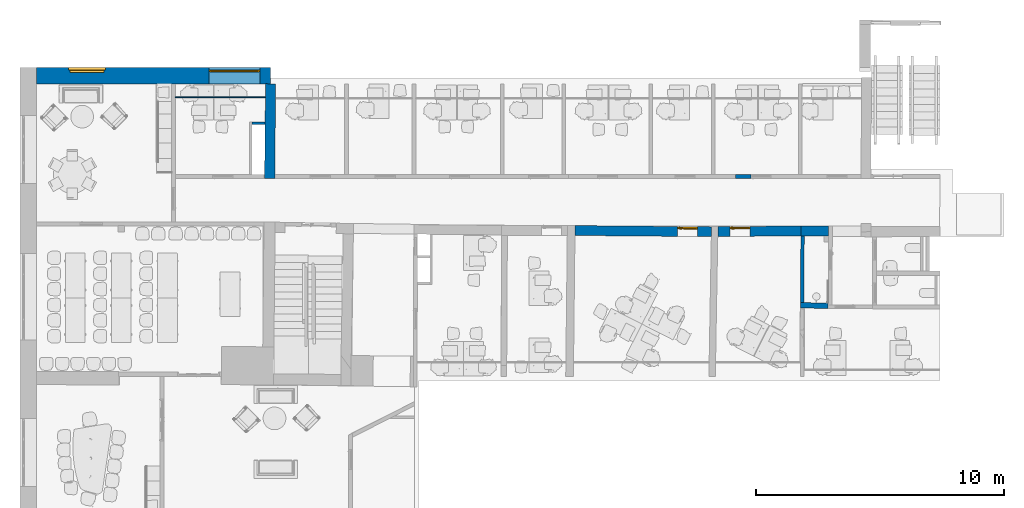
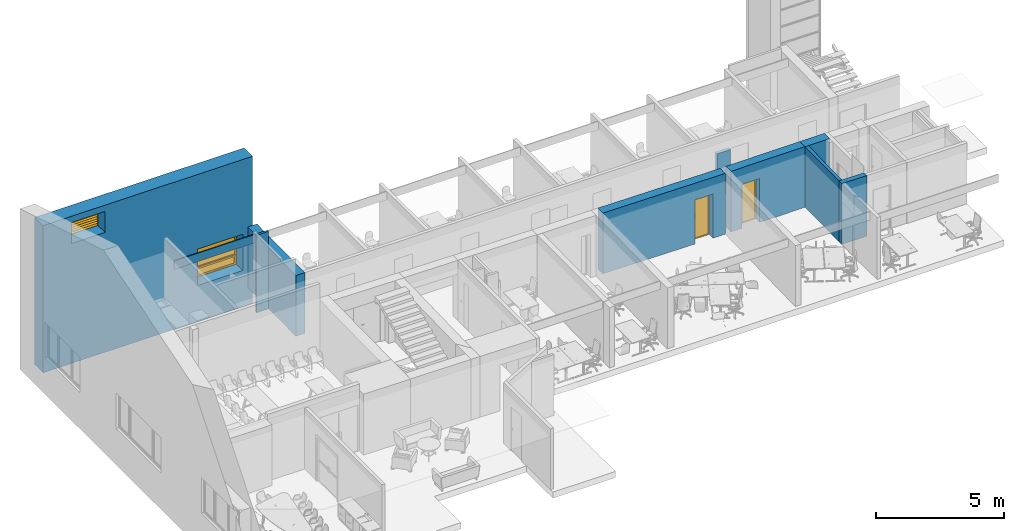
"""IFC2X3 building model written with IfcOpenShell, lengths in millimetres."""

from ifc_helpers import new_model, entity, si_unit, converted_unit, derived_unit, direction, frame, frame_2d, origin, place, context, subcontext, project, spatial, polyline, rectangle, outline, extrude, clip, bounded_halfspace, faceted_brep, source, transform, mapped, material, material_list, layer, layer_set, layer_usage, type_object, type_shapes, element, fill, save


model = new_model("IFC2X3")

# Units and contexts
model_context = context("Model", 3, precision=0.01, world=origin(), true_north=direction((6.12303176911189e-17, 1.0)))
context_of_model = context(None, 3, precision=0.01, world=origin(), true_north=direction((6.12303176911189e-17, 1.0)))
body_context = subcontext(model_context, "Body", "Model", "MODEL_VIEW")
ifc_project = project(units=[si_unit("LENGTHUNIT", "METRE", prefix="MILLI"), si_unit("AREAUNIT", "SQUARE_METRE"), si_unit("VOLUMEUNIT", "CUBIC_METRE"), converted_unit("PLANEANGLEUNIT", "DEGREE", entity("IfcRatioMeasure", 0.0174532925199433), si_unit("PLANEANGLEUNIT", "RADIAN"), dimensions=[0, 0, 0, 0, 0, 0, 0]), si_unit("MASSUNIT", "GRAM", prefix="KILO"), derived_unit("MASSDENSITYUNIT", [(si_unit("MASSUNIT", "GRAM", prefix="KILO"), 1), (si_unit("LENGTHUNIT", "METRE"), -3)]), si_unit("TIMEUNIT", "SECOND"), si_unit("FREQUENCYUNIT", "HERTZ"), si_unit("THERMODYNAMICTEMPERATUREUNIT", "DEGREE_CELSIUS"), derived_unit("THERMALTRANSMITTANCEUNIT", [(si_unit("MASSUNIT", "GRAM", prefix="KILO"), 1), (si_unit("THERMODYNAMICTEMPERATUREUNIT", "KELVIN"), -1), (si_unit("TIMEUNIT", "SECOND"), -3)]), derived_unit("VOLUMETRICFLOWRATEUNIT", [(si_unit("LENGTHUNIT", "METRE"), 3), (si_unit("TIMEUNIT", "SECOND"), -1)]), si_unit("ELECTRICCURRENTUNIT", "AMPERE"), si_unit("ELECTRICVOLTAGEUNIT", "VOLT"), si_unit("POWERUNIT", "WATT"), si_unit("FORCEUNIT", "NEWTON", prefix="KILO"), si_unit("ILLUMINANCEUNIT", "LUX"), si_unit("LUMINOUSFLUXUNIT", "LUMEN"), si_unit("LUMINOUSINTENSITYUNIT", "CANDELA"), derived_unit("USERDEFINED", [(si_unit("MASSUNIT", "GRAM", prefix="KILO"), -1), (si_unit("LENGTHUNIT", "METRE"), -2), (si_unit("TIMEUNIT", "SECOND"), 3), (si_unit("LUMINOUSFLUXUNIT", "LUMEN"), 1)]), derived_unit("LINEARVELOCITYUNIT", [(si_unit("LENGTHUNIT", "METRE"), 1), (si_unit("TIMEUNIT", "SECOND"), -1)]), si_unit("PRESSUREUNIT", "PASCAL"), derived_unit("USERDEFINED", [(si_unit("LENGTHUNIT", "METRE"), -2), (si_unit("MASSUNIT", "GRAM", prefix="KILO"), 1), (si_unit("TIMEUNIT", "SECOND"), -2)])], contexts=[model_context, context_of_model])

# Site, building, storey
site_placement = place(None, frame((121442.264707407, 135347.995453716, -1800.0)))
site = spatial("IfcSite", under=ifc_project, at=site_placement, Name="Surface", CompositionType="ELEMENT")
building_placement = place(site_placement, origin())
building = spatial("IfcBuilding", under=site, at=building_placement, CompositionType="ELEMENT")
storey_1_placement = place(building_placement, frame((0.0, 0.0, 5125.0)))
storey_1 = spatial("IfcBuildingStorey", under=building, at=storey_1_placement, Name="2 korrus", CompositionType="ELEMENT", Elevation=5125.00000000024)

# Wall, opening, door
ifc_material_1 = material(Name="__Betoonelement")
ifc_layer_1 = layer(ifc_material_1, 400.0)
ifc_layer_set_1 = layer_set([ifc_layer_1], Name="Basic Wall:40_Betoon")
ifc_layer_usage_1 = layer_usage(ifc_layer_set_1, "AXIS2", "POSITIVE", -200.0)
wall_type_1 = type_object("IfcWallType", Name="Basic Wall:40_Betoon", PredefinedType="STANDARD", material=ifc_layer_set_1)
wall_1_placement = place(storey_1_placement, frame((-88129.2373977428, -121273.742559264, 0.0), z_axis=(0.0, 0.0, 1.0), x_axis=(-0.999980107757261, -0.00630746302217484, 0.0)))
wall_1 = element("IfcWallStandardCase", 1, at=wall_1_placement, inside=storey_1, type_object=wall_type_1, material=ifc_layer_usage_1, Name="Basic Wall:40_Betoon", ObjectType="Basic Wall:40_Betoon", context=body_context, shape_type="Clipping", body=[
    clip(extrude(outline(polyline([(0.0, -200.0), (3341.96299466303, -200.0), (3351.46910264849, 200.0), (4.82659053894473, 200.0), (0.0, -200.0)])), origin(), (0.0, 0.0, 1.0), 2897.0), bounded_halfspace(frame((0.0, -200.0, 2897.0), z_axis=(0.0, 0.0, -1.0), x_axis=(0.00630746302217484, 0.999980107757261, 0.0)), True, frame((0.0, -200.0, 2897.0)), polyline([(0.0, 0.0), (3341.96299466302, 0.0), (3351.46910264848, 400.0), (4.82659053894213, 400.0), (0.0, 0.0)]))),
])
opening_1_placement = place(wall_1_placement, frame((2861.42970124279, 200.0, 0.0)))
opening_1 = element("IfcOpeningElement", 2, at=opening_1_placement, cuts=wall_1, Name="sma_D01:810 x 2110_SU-01 Siseuks:1", ObjectType="Opening", context=body_context, shape_type="SweptSolid", body=[
    extrude(rectangle(XDim=2099.99999999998, YDim=810.0, at=frame_2d((1049.99999999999, 405.0), x_axis=(1.0, 0.0))), frame((0.0, 0.0, 0.0), z_axis=(0.0, -1.0, 0.0), x_axis=(0.0, 0.0, 1.0)), (0.0, 0.0, 1.0), 400.0),
])
ifc_material_2 = material(Name="Metal - Aluminium")
ifc_material_3 = material(Name="Door - Panel_valge")
ifc_material_list_1 = material_list([ifc_material_2, ifc_material_3])
ifc_material_list_2 = material_list([ifc_material_2, ifc_material_3])
door_style = type_object("IfcDoorStyle", Name="810 x 2110_SU-01 Siseuks", ConstructionType="NOTDEFINED", OperationType="SINGLE_SWING_RIGHT", ParameterTakesPrecedence=False, Sizeable=False, material=ifc_material_list_2)
shared_shape_1 = source(origin(), body_context, "Body", "Brep", [
    faceted_brep([(100.0, 290.0, 1112.5), (100.0, 328.0, 1112.5), (75.0, 328.0, 1112.5), (75.0, 285.0, 1112.5), (195.0, 285.0, 1112.5), (195.0, 290.0, 1112.5), (100.0, 290.0, 1087.5), (195.0, 290.0, 1087.5), (195.0, 285.0, 1087.5), (75.0, 285.0, 1087.5), (75.0, 328.0, 1087.5), (100.0, 328.0, 1087.5)], [[[0, 1, 2, 3, 4, 5]], [[6, 7, 8, 9, 10, 11]], [[1, 0, 6, 11]], [[2, 1, 11, 10]], [[3, 2, 10, 9]], [[4, 3, 9, 8]], [[5, 4, 8, 7]], [[0, 5, 7, 6]]]),
    faceted_brep([(112.499999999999, 328.0, 1137.5), (112.499999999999, 330.0, 1137.5), (62.4999999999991, 330.0, 1137.5), (62.4999999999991, 328.0, 1137.5), (112.499999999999, 328.0, 1017.5), (62.4999999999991, 328.0, 1017.5), (62.4999999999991, 330.0, 1017.5), (112.499999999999, 330.0, 1017.5)], [[[0, 1, 2, 3]], [[4, 5, 6, 7]], [[1, 0, 4, 7]], [[2, 1, 7, 6]], [[3, 2, 6, 5]], [[0, 3, 5, 4]]]),
    faceted_brep([(100.0, 420.0, 1112.5), (195.0, 420.0, 1112.5), (195.0, 425.0, 1112.5), (75.0, 425.0, 1112.5), (75.0, 382.0, 1112.5), (100.0, 382.0, 1112.5), (100.0, 420.0, 1087.5), (100.0, 382.0, 1087.5), (75.0, 382.0, 1087.5), (75.0, 425.0, 1087.5), (195.0, 425.0, 1087.5), (195.0, 420.0, 1087.5)], [[[0, 1, 2, 3, 4, 5]], [[6, 7, 8, 9, 10, 11]], [[5, 7, 6, 0]], [[4, 8, 7, 5]], [[3, 9, 8, 4]], [[2, 10, 9, 3]], [[1, 11, 10, 2]], [[0, 6, 11, 1]]]),
    faceted_brep([(112.499999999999, 382.0, 1137.5), (62.4999999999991, 382.0, 1137.5), (62.4999999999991, 380.0, 1137.5), (112.499999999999, 380.0, 1137.5), (112.499999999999, 382.0, 1017.5), (112.499999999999, 380.0, 1017.5), (62.4999999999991, 380.0, 1017.5), (62.4999999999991, 382.0, 1017.5)], [[[0, 1, 2, 3]], [[4, 5, 6, 7]], [[3, 5, 4, 0]], [[2, 6, 5, 3]], [[1, 7, 6, 2]], [[0, 4, 7, 1]]]),
    faceted_brep([(810.0, 290.0, 0.0), (770.0, 290.0, 0.0), (770.0, 330.0, 0.0), (785.0, 330.0, 0.0), (785.0, 380.0, 0.0), (810.0, 380.0, 0.0), (810.0, 290.0, 2100.0), (0.0, 290.0, 2100.0), (0.0, 290.0, 0.0), (40.0, 290.0, 0.0), (40.0, 290.0, 2060.0), (770.0, 290.0, 2060.0), (770.0, 330.0, 2060.0), (40.0, 330.0, 2060.0), (40.0, 330.0, 0.0), (25.0, 330.0, 0.0), (25.0, 330.0, 2075.0), (785.0, 330.0, 2075.0), (785.0, 380.0, 2075.0), (25.0, 380.0, 2075.0), (25.0, 380.0, 0.0), (0.0, 380.0, 0.0), (0.0, 380.0, 2100.0), (810.0, 380.0, 2100.0)], [[[0, 1, 2, 3, 4, 5]], [[1, 0, 6, 7, 8, 9, 10, 11]], [[2, 1, 11, 12]], [[3, 2, 12, 13, 14, 15, 16, 17]], [[4, 3, 17, 18]], [[5, 4, 18, 19, 20, 21, 22, 23]], [[0, 5, 23, 6]], [[7, 22, 21, 8]], [[8, 21, 20, 15, 14, 9]], [[13, 10, 9, 14]], [[19, 16, 15, 20]], [[12, 11, 10, 13]], [[18, 17, 16, 19]], [[6, 23, 22, 7]]]),
    faceted_brep([(25.0, 330.0, 2075.0), (25.0, 330.0, 20.0), (785.0, 330.0, 20.0), (785.0, 330.0, 2075.0), (25.0, 380.0, 2075.0), (785.0, 380.0, 2075.0), (785.0, 380.0, 20.0), (25.0, 380.0, 20.0)], [[[0, 1, 2, 3]], [[4, 5, 6, 7]], [[1, 0, 4, 7]], [[2, 1, 7, 6]], [[3, 2, 6, 5]], [[0, 3, 5, 4]]]),
    faceted_brep([(770.0, 290.0, 30.0), (770.0, 290.0, 0.0), (770.0, 330.0, 0.0), (770.0, 330.0, 20.0), (770.0, 330.0, 30.0), (40.0, 290.0, 30.0), (40.0, 330.0, 30.0), (40.0, 330.0, 20.0), (40.0, 330.0, 0.0), (40.0, 290.0, 0.0), (25.0, 330.0, 0.0), (25.0, 380.0, 0.0), (785.0, 380.0, 0.0), (785.0, 330.0, 0.0), (785.0, 380.0, 20.0), (785.0, 330.0, 20.0), (25.0, 380.0, 20.0), (25.0, 330.0, 20.0)], [[[0, 1, 2, 3, 4]], [[5, 6, 7, 8, 9]], [[1, 0, 5, 9]], [[2, 1, 9, 8, 10, 11, 12, 13]], [[6, 4, 3, 7]], [[0, 4, 6, 5]], [[14, 15, 13, 12]], [[16, 11, 10, 17]], [[15, 14, 16, 17, 7, 3]], [[13, 15, 3, 2]], [[14, 12, 11, 16]], [[17, 10, 8, 7]]]),
])
type_shapes(door_style, [shared_shape_1])
door_1_placement = place(opening_1_placement, frame((0.0, 0.0, 0.0), z_axis=(0.0, 0.0, 1.0), x_axis=(-1.0, 0.0, 0.0)))
door_1 = element("IfcDoor", 3, at=door_1_placement, inside=storey_1, type_object=door_style, material=ifc_material_list_1, Name="sma_D01:810 x 2110_SU-01 Siseuks", ObjectType="810 x 2110_SU-01 Siseuks", OverallHeight=2099.99999999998, OverallWidth=810.000000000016, context=body_context, shape_type="MappedRepresentation", body=[
    mapped(shared_shape_1, transform((0.0, 0.0, 0.0), scale=1.0)),
])
fill(opening_1, door_1)

ifc_layer_usage_2 = layer_usage(ifc_layer_set_1, "AXIS2", "POSITIVE", -200.0)
wall_2_placement = place(storey_1_placement, frame((-91734.3702204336, -121303.548777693, 0.0), z_axis=(0.0, 0.0, 1.0), x_axis=(-0.999960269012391, 0.0089140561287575, 0.0)))
wall_2 = element("IfcWallStandardCase", 4, at=wall_2_placement, inside=storey_1, type_object=wall_type_1, material=ifc_layer_usage_2, Name="Basic Wall:40_Betoon", ObjectType="Basic Wall:40_Betoon", context=body_context, shape_type="Clipping", body=[
    clip(extrude(outline(polyline([(0.0, -200.0), (5497.28762283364, -200.0), (5498.14618812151, 200.0), (3.41573035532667, 200.0), (0.0, -200.0)])), origin(), (0.0, 0.0, 1.0), 2897.0), bounded_halfspace(frame((0.0, -200.0, 2897.0), z_axis=(0.0, 0.0, -1.0), x_axis=(-0.0089140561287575, 0.999960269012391, 0.0)), True, frame((0.0, -200.0, 2897.0)), polyline([(0.0, 0.0), (5497.28762283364, 0.0), (5498.14618812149, 400.0), (3.41573035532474, 400.0), (0.0, 0.0)]))),
])
opening_2_placement = place(wall_2_placement, frame((1372.31693264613, 200.0, 0.0)))
opening_2 = element("IfcOpeningElement", 5, at=opening_2_placement, cuts=wall_2, Name="sma_D01:810 x 2110_SU-01 Siseuks:1", ObjectType="Opening", context=body_context, shape_type="SweptSolid", body=[
    extrude(rectangle(XDim=2099.99999999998, YDim=810.0, at=frame_2d((1049.99999999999, 405.0), x_axis=(1.0, 0.0))), frame((0.0, 0.0, 0.0), z_axis=(0.0, -1.0, 0.0), x_axis=(0.0, 0.0, 1.0)), (0.0, 0.0, 1.0), 400.0),
])
ifc_material_list_3 = material_list([ifc_material_2, ifc_material_3])
door_2_placement = place(opening_2_placement, frame((0.0, 0.0, 0.0), z_axis=(0.0, 0.0, 1.0), x_axis=(-1.0, 0.0, 0.0)))
door_2 = element("IfcDoor", 6, at=door_2_placement, inside=storey_1, type_object=door_style, material=ifc_material_list_3, Name="sma_D01:810 x 2110_SU-01 Siseuks", ObjectType="810 x 2110_SU-01 Siseuks", OverallHeight=2099.99999999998, OverallWidth=810.00000000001, context=body_context, shape_type="MappedRepresentation", body=[
    mapped(shared_shape_1, transform((0.0, 0.0, 0.0), scale=1.0)),
])
fill(opening_2, door_2)

# Walls
ifc_layer_2 = layer(ifc_material_1, 140.0)
ifc_layer_set_2 = layer_set([ifc_layer_2], Name="Basic Wall:14_Betoon 2")
ifc_layer_usage_3 = layer_usage(ifc_layer_set_2, "AXIS2", "NEGATIVE", 70.0)
wall_type_2 = type_object("IfcWallType", Name="Basic Wall:14_Betoon 2", PredefinedType="STANDARD", material=ifc_layer_set_2)
wall_3_placement = place(storey_1_placement, frame((-88078.2747397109, -124160.863948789, 0.0), z_axis=(0.0, 0.0, 1.0), x_axis=(0.00575835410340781, 0.999983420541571, 0.0)))
element("IfcWallStandardCase", 7, at=wall_3_placement, inside=storey_1, type_object=wall_type_2, material=ifc_layer_usage_3, Name="Basic Wall:14_Betoon 2", ObjectType="Basic Wall:14_Betoon 2", context=body_context, shape_type="SweptSolid", body=[
    extrude(outline(polyline([(-77.7087802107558, -1338.48869014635), (62.2935409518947, -1338.48869014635), (77.7034171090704, 1337.55734541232), (-62.2881778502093, 1339.42003488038), (-77.7087802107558, -1338.48869014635)])), frame((1339.03915063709, 0.0, 0.0), z_axis=(0.0, 0.0, 1.0), x_axis=(-0.00575835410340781, 0.999983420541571, 0.0)), (0.0, 0.0, 1.0), 2897.0),
])
ifc_layer_3 = layer(ifc_material_1, 410.0)
ifc_layer_set_3 = layer_set([ifc_layer_3], Name="Basic Wall:41_Betoon 2")
ifc_layer_usage_4 = layer_usage(ifc_layer_set_3, "AXIS2", "POSITIVE", -205.0)
wall_type_3 = type_object("IfcWallType", Name="Basic Wall:41_Betoon 2", PredefinedType="STANDARD", material=ifc_layer_set_3)
wall_4_placement = place(storey_1_placement, frame((-87012.1216592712, -121278.35830855, 0.0), z_axis=(0.0, 0.0, 1.0), x_axis=(-1.0, 0.0, 0.0)))
element("IfcWallStandardCase", 8, at=wall_4_placement, inside=storey_1, type_object=wall_type_3, material=ifc_layer_usage_4, Name="Basic Wall:41_Betoon 2", ObjectType="Basic Wall:41_Betoon 2", context=body_context, shape_type="Clipping", body=[
    clip(extrude(outline(polyline([(1118.37499547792, -205.0), (1118.37723107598, -204.611770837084), (1120.68074039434, 195.410715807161), (1120.73595980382, 205.0), (980.733638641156, 205.0), (2.15899014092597, 205.0), (0.0, -205.0), (1118.37499547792, -205.0)])), origin(), (0.0, 0.0, 1.0), 2897.0), bounded_halfspace(frame((0.0, -205.0, 2897.0), z_axis=(0.0, 0.0, -1.0), x_axis=(0.0, 1.0, 0.0)), True, frame((0.0, -205.0, 2897.0)), polyline([(0.0, 0.0), (1118.37499547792, 0.0), (1118.37723107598, 0.388229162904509), (1120.68074039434, 400.410715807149), (1120.73595980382, 410.0), (980.733638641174, 410.0), (2.15899014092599, 410.0), (0.0, 0.0)]))),
])
ifc_layer_usage_5 = layer_usage(ifc_layer_set_3, "AXIS2", "POSITIVE", -205.0)
wall_5_placement = place(storey_1_placement, frame((-109497.938784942, -115341.919112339, 0.0), z_axis=(0.0, 0.0, 1.0), x_axis=(-0.00992611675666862, -0.999950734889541, 0.0)))
element("IfcWallStandardCase", 9, at=wall_5_placement, inside=storey_1, type_object=wall_type_3, material=ifc_layer_usage_5, Name="Basic Wall:41_Betoon 2", ObjectType="Basic Wall:41_Betoon 2", context=body_context, shape_type="Clipping", body=[
    clip(extrude(outline(polyline([(3809.6406201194, -205.0), (3805.57071174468, 205.0), (0.0, 205.0), (0.0, -205.0), (3809.6406201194, -205.0)])), origin(), (0.0, 0.0, 1.0), 2897.0), bounded_halfspace(frame((3807.50885509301, 9.75266279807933, 2897.0), z_axis=(0.0, 0.0, -1.0), x_axis=(0.999950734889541, 0.00992611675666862, 0.0)), True, frame((3807.50885509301, 9.75266279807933, 2897.0)), polyline([(0.0, 0.0), (-1.93814334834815, 195.24733720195), (-3807.50885509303, 195.24733720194), (-3807.50885509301, -37.7956394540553), (0.0, 0.0)]))),
])
ifc_layer_4 = layer(ifc_material_1, 220.0)
ifc_layer_set_4 = layer_set([ifc_layer_4], Name="Basic Wall:22_Betoon 3")
ifc_layer_usage_6 = layer_usage(ifc_layer_set_4, "AXIS2", "NEGATIVE", 110.0)
wall_type_4 = type_object("IfcWallType", Name="Basic Wall:22_Betoon 3", PredefinedType="STANDARD", material=ifc_layer_set_4)
wall_6_placement = place(storey_1_placement, frame((-87028.1457164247, -124284.318111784, 0.0), z_axis=(0.0, 0.0, 1.0), x_axis=(-0.99991149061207, 0.0133045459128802, 0.0)))
element("IfcWallStandardCase", 10, at=wall_6_placement, inside=storey_1, type_object=wall_type_4, material=ifc_layer_usage_6, Name="Basic Wall:22_Betoon 3", ObjectType="Basic Wall:22_Betoon 3", context=body_context, shape_type="Clipping", body=[
    clip(extrude(outline(polyline([(1121.6845584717, -110.0), (1123.42266147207, 110.0), (963.417668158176, 110.0), (0.0, 110.0), (1.12406480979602, -29.820695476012), (1.76865275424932, -110.0), (981.68057184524, -110.0), (1121.6845584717, -110.0)])), origin(), (0.0, 0.0, 1.0), 2897.0), bounded_halfspace(frame((1.76865275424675, -110.0, 2897.0), z_axis=(0.0, 0.0, -1.0), x_axis=(-0.0133045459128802, 0.99991149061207, 0.0)), True, frame((1.76865275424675, -110.0, 2897.0)), polyline([(0.0, 0.0), (979.911919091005, 0.0), (1119.91590571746, 0.0), (1121.65400871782, 220.0), (961.649015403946, 220.0), (-1.76865275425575, 220.0), (-0.644587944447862, 80.1793045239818), (0.0, 0.0)]))),
])

# Wall, openings, window
ifc_material_4 = material(Name="Plaster")
ifc_layer_5 = layer(ifc_material_4, 10.0)
ifc_material_5 = material(Name="Polystyrene")
ifc_layer_6 = layer(ifc_material_5, 150.0)
ifc_layer_7 = layer(ifc_material_1, 500.0)
ifc_layer_set_5 = layer_set([ifc_layer_5, ifc_layer_6, ifc_layer_7], Name="Basic Wall:Olemasolev Soojustatud Välissein")
ifc_layer_usage_7 = layer_usage(ifc_layer_set_5, "AXIS2", "NEGATIVE", 330.0)
wall_type_5 = type_object("IfcWallType", Name="Basic Wall:Olemasolev Soojustatud Välissein", PredefinedType="STANDARD", material=ifc_layer_set_5)
wall_7_placement = place(storey_1_placement, frame((-118935.776610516, -115011.919112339, -822.434363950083)))
wall_7 = element("IfcWallStandardCase", 11, at=wall_7_placement, inside=storey_1, type_object=wall_type_5, material=ifc_layer_usage_7, Name="Basic Wall:Olemasolev Soojustatud Välissein", ObjectType="Basic Wall:Olemasolev Soojustatud Välissein", context=body_context, shape_type="SweptSolid", body=[
    extrude(rectangle(XDim=9442.75946968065, YDim=659.999999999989, at=frame_2d((4721.37973484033, -7.95807864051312e-13), x_axis=(-1.0, 0.0))), origin(), (0.0, 0.0, 1.0), 7012.38871589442),
])
opening_3_placement = place(wall_7_placement, frame((2790.34140128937, 330.0, 5712.43436395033)))
opening_3 = element("IfcOpeningElement", 12, at=opening_3_placement, cuts=wall_7, Name="VR-03:VR-03 LAI REST:1", ObjectType="Opening", context=body_context, shape_type="SweptSolid", body=[
    extrude(rectangle(XDim=1000.0, YDim=1500.00000000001, at=frame_2d((500.0, 750.000000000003), x_axis=(1.0, 0.0))), frame((0.0, 0.0, 0.0), z_axis=(0.0, -1.0, 0.0), x_axis=(0.0, 0.0, 1.0)), (0.0, 0.0, 1.0), 660.0),
])
opening_4_placement = place(wall_7_placement, frame((6952.75946968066, -330.0, 1722.43436395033)))
opening_4 = element("IfcOpeningElement", 13, at=opening_4_placement, cuts=wall_7, Name="sma_W2:A-1 UUS 2050 x 1730mm Avatav:1", ObjectType="Opening", context=body_context, shape_type="SweptSolid", body=[
    extrude(rectangle(XDim=1730.0, YDim=2050.0, at=frame_2d((865.0, 1025.0), x_axis=(1.0, 0.0))), frame((0.0, 0.0, 0.0), z_axis=(0.0, 1.0, 0.0), x_axis=(0.0, 0.0, 1.0)), (0.0, 0.0, 1.0), 660.0),
])
ifc_material_6 = material(Name="PVC")
ifc_material_7 = material(Name="Glass")
ifc_material_list_4 = material_list([ifc_material_6, ifc_material_7])
ifc_material_list_5 = material_list([ifc_material_6, ifc_material_7])
window_style_1 = type_object("IfcWindowStyle", Name="A-1 UUS 2050 x 1730mm Avatav", ConstructionType="NOTDEFINED", OperationType="NOTDEFINED", ParameterTakesPrecedence=False, Sizeable=False, material=ifc_material_list_5)
shared_shape_2 = source(origin(), body_context, "Body", "Brep", [
    faceted_brep([(0.0, 499.759876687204, 0.0), (2050.0, 499.759876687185, 0.0), (2050.0, 499.759876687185, 1730.0), (0.0, 499.759876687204, 1730.0), (35.0, 499.759876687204, 35.0), (35.0, 499.759876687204, 480.0), (2015.0, 499.759876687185, 480.0), (2015.0, 499.759876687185, 35.0), (1980.0, 499.759876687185, 515.0), (70.0, 499.759876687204, 515.0), (70.0, 499.759876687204, 1660.0), (1980.0, 499.759876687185, 1660.0), (0.0, 549.759876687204, 0.0), (2050.0, 549.759876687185, 0.0), (2050.0, 549.759876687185, 1730.0), (0.0, 549.759876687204, 1730.0), (35.0, 524.759876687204, 35.0), (35.0, 524.759876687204, 480.0), (2015.0, 524.759876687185, 480.0), (2015.0, 524.759876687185, 35.0), (70.0, 549.759876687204, 70.0), (1980.0, 549.759876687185, 70.0), (1980.0, 549.759876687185, 445.0), (70.0, 549.759876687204, 445.0), (1980.0, 549.759876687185, 515.0), (1980.0, 549.759876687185, 1660.0), (70.0, 549.759876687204, 1660.0), (70.0, 549.759876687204, 515.0), (70.0, 524.759876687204, 70.0), (1980.0, 524.759876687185, 70.0), (1980.0, 524.759876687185, 445.0), (70.0, 524.759876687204, 445.0)], [[[0, 1, 2, 3], [4, 5, 6, 7], [8, 9, 10, 11]], [[1, 0, 12, 13]], [[2, 1, 13, 14]], [[0, 3, 15, 12]], [[16, 17, 5, 4]], [[18, 19, 7, 6]], [[19, 16, 4, 7]], [[12, 15, 14, 13], [20, 21, 22, 23], [24, 25, 26, 27]], [[21, 20, 28, 29]], [[22, 21, 29, 30]], [[20, 23, 31, 28]], [[17, 16, 19, 18], [28, 31, 30, 29]], [[3, 2, 14, 15]], [[10, 9, 27, 26]], [[11, 10, 26, 25]], [[8, 11, 25, 24]], [[23, 22, 30, 31]], [[9, 8, 24, 27]], [[17, 18, 6, 5]]]),
    faceted_brep([(105.0, 489.759876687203, 105.0), (1945.0, 489.759876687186, 105.0), (1945.0, 489.759876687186, 410.0), (105.0, 489.759876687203, 410.0), (105.0, 509.759876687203, 105.0), (1945.0, 509.759876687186, 105.0), (1945.0, 509.759876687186, 410.0), (105.0, 509.759876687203, 410.0)], [[[0, 1, 2, 3]], [[1, 0, 4, 5]], [[2, 1, 5, 6]], [[0, 3, 7, 4]], [[4, 7, 6, 5]], [[3, 2, 6, 7]]]),
    faceted_brep([(35.0, 474.759876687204, 35.0), (2015.0, 474.759876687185, 35.0), (2015.0, 474.759876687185, 480.0), (35.0, 474.759876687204, 480.0), (105.0, 474.759876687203, 105.0), (105.0, 474.759876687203, 410.0), (1945.0, 474.759876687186, 410.0), (1945.0, 474.759876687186, 105.0), (35.0, 524.759876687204, 35.0), (2015.0, 524.759876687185, 35.0), (2015.0, 524.759876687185, 480.0), (35.0, 524.759876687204, 480.0), (105.0, 524.759876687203, 105.0), (105.0, 524.759876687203, 410.0), (1945.0, 524.759876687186, 410.0), (1945.0, 524.759876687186, 105.0)], [[[0, 1, 2, 3], [4, 5, 6, 7]], [[1, 0, 8, 9]], [[2, 1, 9, 10]], [[0, 3, 11, 8]], [[5, 4, 12, 13]], [[7, 6, 14, 15]], [[4, 7, 15, 12]], [[8, 11, 10, 9], [12, 15, 14, 13]], [[3, 2, 10, 11]], [[6, 5, 13, 14]]]),
    faceted_brep([(70.0, 514.759876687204, 515.0), (1980.0, 514.759876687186, 515.0), (1980.0, 514.759876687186, 1660.0), (70.0, 514.759876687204, 1660.0), (1980.0, 534.759876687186, 515.0), (1980.0, 534.759876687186, 1660.0), (70.0, 534.759876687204, 1660.0), (70.0, 534.759876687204, 515.0)], [[[0, 1, 2, 3]], [[2, 1, 4, 5]], [[3, 2, 5, 6]], [[0, 3, 6, 7]], [[7, 6, 5, 4]], [[1, 0, 7, 4]]]),
])
type_shapes(window_style_1, [shared_shape_2])
window_1_placement = place(opening_4_placement, origin())
window_1 = element("IfcWindow", 14, at=window_1_placement, inside=storey_1, type_object=window_style_1, material=ifc_material_list_4, Name="sma_W2:A-1 UUS 2050 x 1730mm Avatav", ObjectType="A-1 UUS 2050 x 1730mm Avatav", OverallHeight=1730.0, OverallWidth=2050.0, context=body_context, shape_type="MappedRepresentation", body=[
    mapped(shared_shape_2, transform((0.0, 0.0, 0.0), scale=1.0)),
])
fill(opening_4, window_1)

# Storey
storey_2_placement = place(building_placement, frame((0.0, 0.0, 8815.0)))
storey_2 = spatial("IfcBuildingStorey", under=building, at=storey_2_placement, Name="Saali lagi", CompositionType="ELEMENT", Elevation=8815.00000000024)

# Window
ifc_material_8 = material(Name="__Aken/Uks_hall")
window_style_2 = type_object("IfcWindowStyle", Name="VR-03 LAI REST", ConstructionType="NOTDEFINED", OperationType="NOTDEFINED", ParameterTakesPrecedence=False, Sizeable=False, material=ifc_material_8)
shared_shape_3 = source(origin(), body_context, "Body", "SweptSolid", [
    extrude(rectangle(XDim=20.0, YDim=120.0, at=frame_2d((-1.77635683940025e-14, 7.8159700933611e-14), x_axis=(0.0, 1.0))), frame((70.0, 160.0, 876.676893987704), z_axis=(1.0, 0.0, 0.0), x_axis=(0.0, -0.707106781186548, 0.707106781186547)), (0.0, 0.0, 1.0), 1360.00000000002),
    extrude(rectangle(XDim=20.0, YDim=120.0, at=frame_2d((1.77635683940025e-14, -4.44089209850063e-15), x_axis=(0.0, 1.0))), frame((70.0, 160.0, 123.297474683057), z_axis=(1.0, 0.0, 0.0), x_axis=(0.0, -0.707106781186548, 0.707106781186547)), (0.0, 0.0, 1.0), 1360.00000000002),
    extrude(rectangle(XDim=20.0, YDim=120.0, at=frame_2d((-6.75015598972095e-14, 2.93098878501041e-14), x_axis=(0.0, 1.0))), frame((70.0, 160.0, 553.799999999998), z_axis=(1.0, 0.0, 0.0), x_axis=(0.0, -0.707106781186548, 0.707106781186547)), (0.0, 0.0, 1.0), 1360.00000000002),
    extrude(rectangle(XDim=20.0, YDim=120.0, at=frame_2d((-1.06581410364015e-14, -6.21724893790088e-15), x_axis=(0.0, 1.0))), frame((70.0, 160.0, 338.548737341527), z_axis=(1.0, 0.0, 0.0), x_axis=(0.0, -0.707106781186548, 0.707106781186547)), (0.0, 0.0, 1.0), 1360.00000000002),
    extrude(rectangle(XDim=20.0, YDim=120.0, at=frame_2d((-2.8421709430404e-14, 2.30926389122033e-14), x_axis=(0.0, 1.0))), frame((70.0, 160.0, 230.923106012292), z_axis=(1.0, 0.0, 0.0), x_axis=(0.0, -0.707106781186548, 0.707106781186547)), (0.0, 0.0, 1.0), 1360.00000000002),
    extrude(rectangle(XDim=20.0000000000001, YDim=120.0, at=frame_2d((-5.32907051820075e-14, 3.99680288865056e-14), x_axis=(0.0, 1.0))), frame((70.0, 160.0, 446.174368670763), z_axis=(1.0, 0.0, 0.0), x_axis=(0.0, -0.707106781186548, 0.707106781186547)), (0.0, 0.0, 1.0), 1360.00000000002),
    extrude(rectangle(XDim=20.0, YDim=120.0, at=frame_2d((-2.1316282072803e-14, 7.54951656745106e-14), x_axis=(0.0, 1.0))), frame((70.0, 160.0, 661.425631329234), z_axis=(1.0, 0.0, 0.0), x_axis=(0.0, -0.707106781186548, 0.707106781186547)), (0.0, 0.0, 1.0), 1360.00000000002),
    extrude(rectangle(XDim=20.0000000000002, YDim=120.0, at=frame_2d((3.5527136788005e-15, 6.21724893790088e-15), x_axis=(0.0, 1.0))), frame((70.0, 160.0, 769.051262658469), z_axis=(1.0, 0.0, 0.0), x_axis=(0.0, -0.707106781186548, 0.707106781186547)), (0.0, 0.0, 1.0), 1360.00000000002),
    extrude(outline(polyline([(-750.0, -500.0), (750.0, -500.0), (750.0, 500.0), (-750.0, 500.0), (-750.0, -500.0)]), holes=[polyline([(680.0, -430.0), (-680.0, -430.0), (-680.0, 430.0), (680.0, 430.0), (680.0, -430.0)])]), frame((750.0, 0.0, 500.0), z_axis=(0.0, 1.0, 0.0), x_axis=(-1.0, 0.0, 0.0)), (0.0, 0.0, 1.0), 100.0),
])
type_shapes(window_style_2, [shared_shape_3])
window_2_placement = place(opening_3_placement, frame((0.0, 0.0, 0.0), z_axis=(0.0, 0.0, 1.0), x_axis=(-1.0, 0.0, 0.0)))
window_2 = element("IfcWindow", 15, at=window_2_placement, inside=storey_2, type_object=window_style_2, material=ifc_material_8, Name="VR-03:VR-03 LAI REST", ObjectType="VR-03 LAI REST", OverallHeight=1000.0, OverallWidth=1500.00000000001, context=body_context, shape_type="MappedRepresentation", body=[
    mapped(shared_shape_3, transform((0.0, 0.0, 0.0), scale=1.0)),
])

fill(opening_3, window_2)

# Wall, opening
ifc_layer_8 = layer(ifc_material_4, 10.0)
ifc_material_9 = material(Name="EST. Müüritis. Väikeplokk. Kergkruusplokk")
ifc_layer_9 = layer(ifc_material_9, 130.0)
ifc_layer_10 = layer(ifc_material_4, 10.0)
ifc_layer_set_6 = layer_set([ifc_layer_8, ifc_layer_9, ifc_layer_10], Name="Basic Wall:15_FIBO")
ifc_layer_usage_8 = layer_usage(ifc_layer_set_6, "AXIS2", "NEGATIVE", 75.0)
wall_type_6 = type_object("IfcWallType", Name="Basic Wall:15_FIBO", PredefinedType="STANDARD", material=ifc_layer_set_6)
wall_8_placement = place(storey_1_placement, frame((-90145.7565439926, -119074.337196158, 0.0), z_axis=(0.0, 0.0, 1.0), x_axis=(-1.0, 0.0, 0.0)))
wall_8 = element("IfcWallStandardCase", 16, at=wall_8_placement, inside=storey_1, type_object=wall_type_6, material=ifc_layer_usage_8, Name="Basic Wall:15_FIBO", ObjectType="Basic Wall:15_FIBO", context=body_context, shape_type="SweptSolid", body=[
    extrude(rectangle(XDim=619.570707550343, YDim=150.000000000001, at=frame_2d((309.785353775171, 9.66338120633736e-13), x_axis=(-1.0, 0.0))), origin(), (0.0, 0.0, 1.0), 2054.99999999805),
])
opening_5_placement = place(wall_8_placement, origin())
element("IfcOpeningElement", 17, at=opening_5_placement, cuts=wall_8, Name="Basic Wall:15_FIBO", ObjectType="Opening", context=body_context, shape_type="SweptSolid", body=[
    extrude(rectangle(XDim=2099.99999999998, YDim=810.000000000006, at=frame_2d((0.0, -8.66862137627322e-12), x_axis=(1.0, 0.0))), frame((-405.0, -1599.0, 1050.0), z_axis=(0.0, 1.0, 0.0), x_axis=(0.0, 0.0, 1.0)), (0.0, 0.0, 1.0), 3048.0),
])

# Walls
ifc_layer_11 = layer(ifc_material_4, 5.0)
ifc_material_10 = material(Name="CMU, Lightweight")
ifc_layer_12 = layer(ifc_material_10, 90.0)
ifc_layer_13 = layer(ifc_material_4, 5.0)
ifc_layer_set_7 = layer_set([ifc_layer_11, ifc_layer_12, ifc_layer_13], Name="Basic Wall:10_FIBO + 2xKROHV")
ifc_layer_usage_9 = layer_usage(ifc_layer_set_7, "AXIS2", "POSITIVE", -50.0)
wall_type_7 = type_object("IfcWallType", Name="Basic Wall:10_FIBO + 2xKROHV", PredefinedType="STANDARD", material=ifc_layer_set_7)
wall_9_placement = place(storey_1_placement, frame((-110255.51405853, -116938.914031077, 0.0)))
element("IfcWallStandardCase", 18, at=wall_9_placement, inside=storey_1, type_object=wall_type_7, material=ifc_layer_usage_9, Name="Basic Wall:10_FIBO + 2xKROHV", ObjectType="Basic Wall:10_FIBO + 2xKROHV", context=body_context, shape_type="SweptSolid", body=[
    extrude(outline(polyline([(536.216104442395, -50.0), (537.208765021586, 50.0), (0.0, 50.0), (0.0, -50.0), (536.216104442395, -50.0)])), origin(), (0.0, 0.0, 1.0), 3690.0),
])
ifc_material_11 = material(Name="Metal - Stud Layer")
ifc_layer_14 = layer(ifc_material_11, 30.0)
ifc_material_12 = material(Name="Gypsum Wall Board")
ifc_layer_15 = layer(ifc_material_12, 13.0)
ifc_layer_set_8 = layer_set([ifc_layer_14, ifc_layer_15], Name="Basic Wall:Kipssirm 1 kordne")
ifc_layer_usage_10 = layer_usage(ifc_layer_set_8, "AXIS2", "NEGATIVE", 21.5)
wall_type_8 = type_object("IfcWallType", Name="Basic Wall:Kipssirm 1 kordne", PredefinedType="STANDARD", material=ifc_layer_set_8)
wall_10_placement = place(storey_1_placement, frame((-113335.548066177, -115885.952432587, 2500.0)))
element("IfcWallStandardCase", 19, at=wall_10_placement, inside=storey_1, type_object=wall_type_8, material=ifc_layer_usage_10, Name="Basic Wall:Kipssirm 1 kordne", ObjectType="Basic Wall:Kipssirm 1 kordne", context=body_context, shape_type="SweptSolid", body=[
    extrude(outline(polyline([(3626.98535505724, -21.5000000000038), (3627.41219910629, 21.5000000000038), (0.0, 21.5000000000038), (0.0, -21.5000000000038), (3626.98535505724, -21.5000000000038)])), origin(), (0.0, 0.0, 1.0), 390.0),
])

save(model, "model.ifc")
